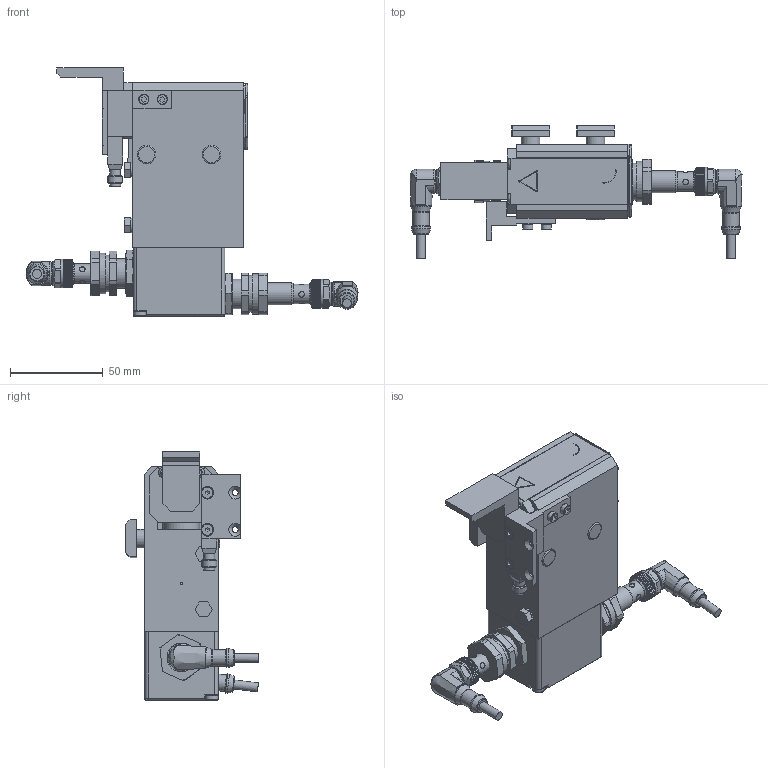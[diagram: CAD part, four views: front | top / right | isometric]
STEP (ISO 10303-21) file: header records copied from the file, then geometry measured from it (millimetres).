
FILE_DESCRIPTION(/* description */ (''),/* implementation_level */ '2;1');
FILE_NAME(/* name */ 'C:\Marketing\01_Versamove-SPU_STEP-Dateien-Homepage\Versamove plus\ASM-60_induktiv.stp',/* time_stamp */ '2016-12-22T15:14:00+01:00',/* author */ ('herbert.engels'),/* organization */ (''),/* preprocessor_version */ 'ST-DEVELOPER v15.6',/* originating_system */ 'Autodesk Inventor 2015',/* authorisation */ '');
FILE_SCHEMA (('CONFIG_CONTROL_DESIGN'));
Length unit declared in the file: millimetre
Products named in the file (1): ASM-60_induktiv
Bounding box: 179.24 x 71.8 x 134 mm (x, y, z)
Volume: 321957.7 mm3; surface area: 73561.2 mm2
Topology: 1 solids, 1 shells, 907 faces, 2407 edges, 1574 vertices
Faces by surface type: plane 616, cylinder 174, cone 85, torus 18, sphere 8, bspline 6
Full cylindrical faces by diameter (mm): 1.5 x2, 2 x2, 2.459 x2, 2.5 x4, 3 x10, 3.2 x4, 3.3 x3, 4.2 x4, 4.9 x2, 5 x1, 5.5 x2, 6 x4, 7 x2, 7.8 x2, 8 x2, 9 x2, 9.8 x2, 10 x5, 10.4 x2, 10.5 x2, 12 x3, 15 x1, 15.55 x2, 16 x2, 19.96 x1, 20 x2, 21.9 x2, 28 x1, 28.9 x2, 30 x1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
Entity records: 28990 total; most frequent: CARTESIAN_POINT 6938, ORIENTED_EDGE 4394, DIRECTION 4033, EDGE_CURVE 2196, VERTEX_POINT 1521, AXIS2_PLACEMENT_3D 1349, LINE 1335, VECTOR 1335
